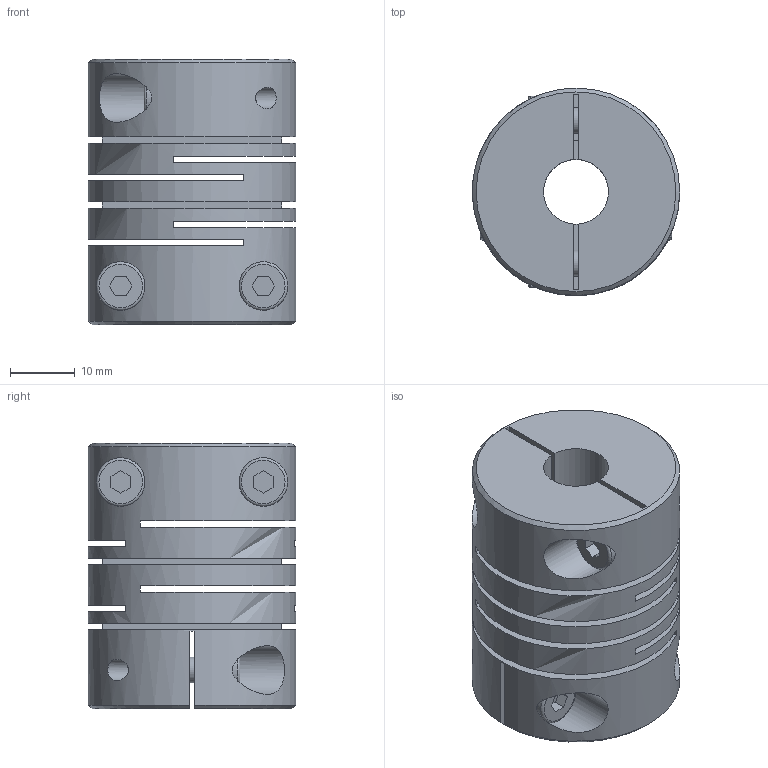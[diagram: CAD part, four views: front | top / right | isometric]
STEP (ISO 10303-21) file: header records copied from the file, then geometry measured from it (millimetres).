
FILE_DESCRIPTION (( 'STEP AP214' ), '1' );
FILE_NAME ('2246-32-B10-12-NI.step', '2022-05-27T09:31:07', ( '' ), ( '' ), 'SwSTEP 2.0', 'SolidWorks 2019', '' );
FILE_SCHEMA (( 'AUTOMOTIVE_DESIGN' ));
Length unit declared in the file: millimetre
Products named in the file (1): 2246-32-B10-12-NI
Bounding box: 32 x 32 x 41 mm (x, y, z)
Volume: 24466.8 mm3; surface area: 14762.9 mm2
Topology: 1 solids, 1 shells, 116 faces, 293 edges, 196 vertices
Faces by surface type: plane 75, cylinder 30, cone 7, torus 4
Full cylindrical faces by diameter (mm): 3.3 x4, 4 x4, 4.5 x4, 10 x3, 12 x4, 32 x1
Entity records: 4206 total; most frequent: CARTESIAN_POINT 1009, DIRECTION 524, ORIENTED_EDGE 458, EDGE_CURVE 229, AXIS2_PLACEMENT_3D 194, EDGE_LOOP 188, VERTEX_POINT 165, FACE_OUTER_BOUND 140
